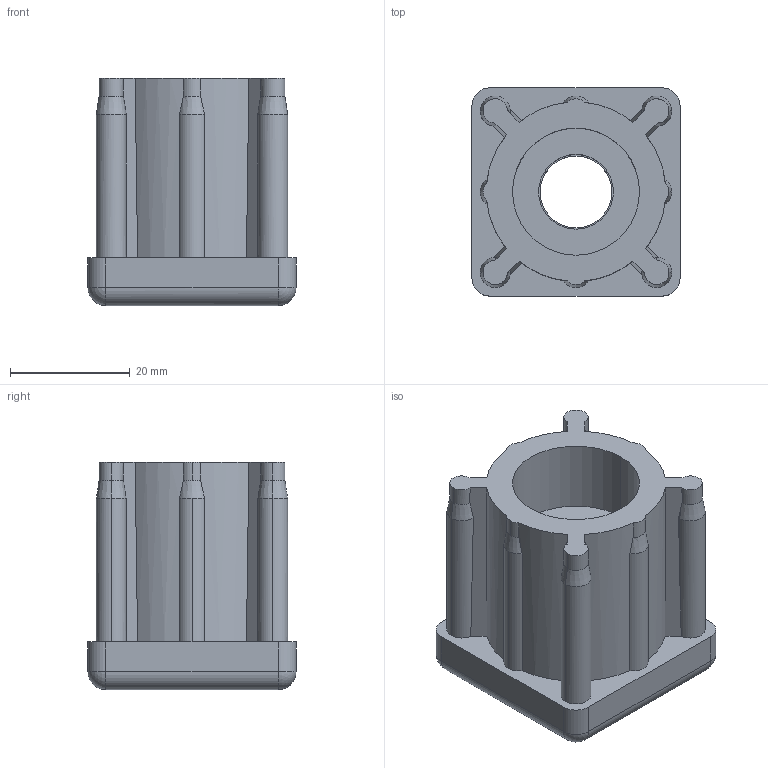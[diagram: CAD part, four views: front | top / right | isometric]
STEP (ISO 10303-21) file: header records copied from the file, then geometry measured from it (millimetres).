
FILE_DESCRIPTION (( 'STEP AP214' ), '1' );
FILE_NAME ('42006835212.STEP', '2020-02-25T17:48:16', ( '' ), ( '' ), 'SwSTEP 2.0', 'SolidWorks 2018', '' );
FILE_SCHEMA (( 'AUTOMOTIVE_DESIGN' ));
Length unit declared in the file: millimetre
Products named in the file (1): 42006835212
Bounding box: 34.8 x 34.8 x 38 mm (x, y, z)
Volume: 26505.8 mm3; surface area: 10467.7 mm2
Topology: 2 solids, 2 shells, 98 faces, 251 edges, 156 vertices
Faces by surface type: cylinder 54, cone 21, plane 19, sphere 4
Entity records: 3038 total; most frequent: CARTESIAN_POINT 661, DIRECTION 507, ORIENTED_EDGE 494, EDGE_CURVE 247, AXIS2_PLACEMENT_3D 210, VERTEX_POINT 156, CIRCLE 111, EDGE_LOOP 105
